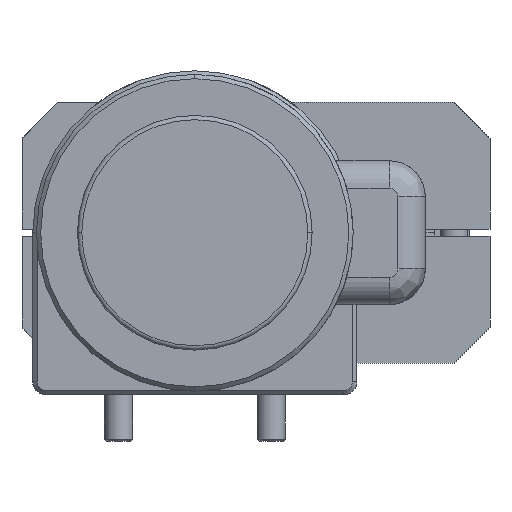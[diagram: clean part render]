
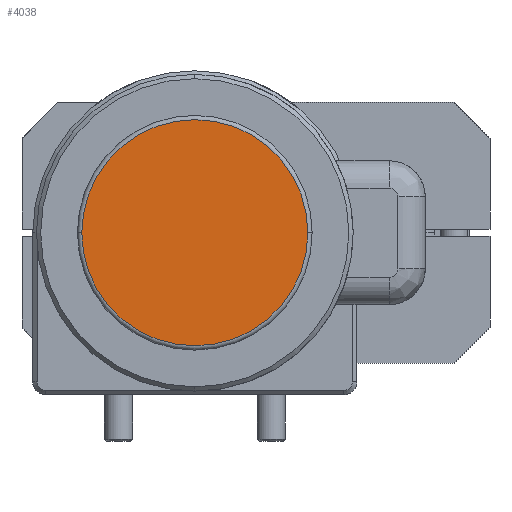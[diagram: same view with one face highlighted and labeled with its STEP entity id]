
A CAD part, front view. The second image highlights one B-rep face of the part: STEP entity #4038.
In plain terms, the highlighted planar face has unit normal (0, -1, 0).
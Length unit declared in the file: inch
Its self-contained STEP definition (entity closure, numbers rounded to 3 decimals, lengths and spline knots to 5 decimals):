
#3977=CARTESIAN_POINT('',(0.,-3.618,0.));
#3978=DIRECTION('',(0.,-1.,0.));
#3979=DIRECTION('',(1.,0.,0.));
#3980=AXIS2_PLACEMENT_3D('',#3977,#3978,#3979);
#4010=CARTESIAN_POINT('',(0.,-3.618,0.));
#4011=DIRECTION('',(0.,1.,0.));
#4012=DIRECTION('',(1.,0.,0.));
#4013=AXIS2_PLACEMENT_3D('',#4010,#4011,#4012);
#4023=CARTESIAN_POINT('',(0.785,-3.618,0.));
#4024=CARTESIAN_POINT('',(-0.785,-3.618,0.));
#4025=VERTEX_POINT('',#4023);
#4026=VERTEX_POINT('',#4024);
#4027=CARTESIAN_POINT('',(0.,-3.618,0.));
#4028=DIRECTION('',(0.,-1.,0.));
#4029=DIRECTION('',(-1.,0.,0.));
#4030=AXIS2_PLACEMENT_3D('',#4027,#4028,#4029);
#4031=PLANE('',#4030);
#4033=ORIENTED_EDGE('',*,*,#4032,.F.);
#4035=ORIENTED_EDGE('',*,*,#4034,.T.);
#4036=EDGE_LOOP('',(#4033,#4035));
#4037=FACE_OUTER_BOUND('',#4036,.F.);
#4038=ADVANCED_FACE('',(#4037),#4031,.T.);
#3981=CIRCLE('',#3980,0.785);
#4014=CIRCLE('',#4013,0.785);
#4032=EDGE_CURVE('',#4025,#4026,#3981,.T.);
#4034=EDGE_CURVE('',#4025,#4026,#4014,.T.);
